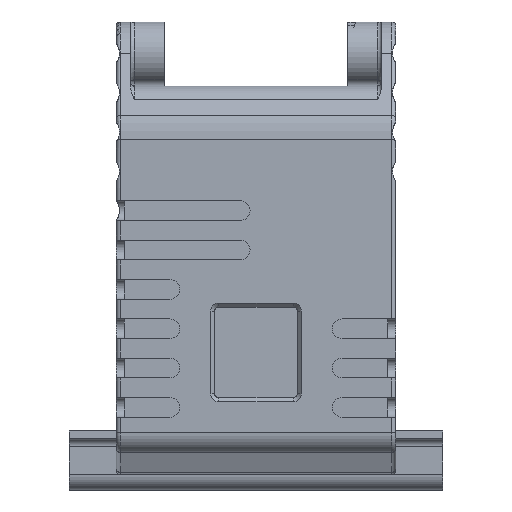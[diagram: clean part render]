
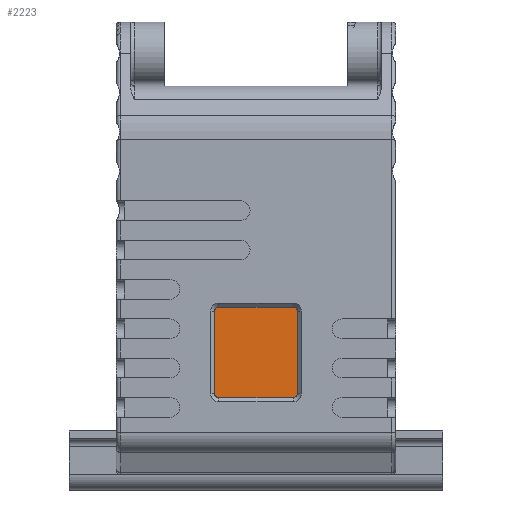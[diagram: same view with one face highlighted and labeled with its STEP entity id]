
A CAD part, left-side view. The second image highlights one B-rep face of the part: STEP entity #2223.
In plain terms, the highlighted planar face has unit normal (-1, 0, 0).
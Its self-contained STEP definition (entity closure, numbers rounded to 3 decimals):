
#1384=PLANE('',#26610);
#2223=ADVANCED_FACE('',(#4166),#1384,.F.);
#4166=FACE_OUTER_BOUND('',#5656,.T.);
#5656=EDGE_LOOP('',(#13005,#13006,#13007,#13008,#13009,#13010,#13011,#13012));
#7575=LINE('',#38697,#9748);
#7576=LINE('',#38698,#9749);
#7577=LINE('',#38702,#9750);
#7578=LINE('',#38703,#9751);
#9748=VECTOR('',#30091,1.);
#9749=VECTOR('',#30092,1.);
#9750=VECTOR('',#30095,1.);
#9751=VECTOR('',#30096,1.);
#13005=ORIENTED_EDGE('',*,*,#22416,.T.);
#13006=ORIENTED_EDGE('',*,*,#21999,.T.);
#13007=ORIENTED_EDGE('',*,*,#22417,.T.);
#13008=ORIENTED_EDGE('',*,*,#22418,.T.);
#13009=ORIENTED_EDGE('',*,*,#22419,.T.);
#13010=ORIENTED_EDGE('',*,*,#22002,.T.);
#13011=ORIENTED_EDGE('',*,*,#22420,.T.);
#13012=ORIENTED_EDGE('',*,*,#22005,.T.);
#19537=VERTEX_POINT('',#37670);
#19538=VERTEX_POINT('',#37672);
#19539=VERTEX_POINT('',#37676);
#19540=VERTEX_POINT('',#37678);
#19541=VERTEX_POINT('',#37682);
#19542=VERTEX_POINT('',#37684);
#19787=VERTEX_POINT('',#38699);
#19788=VERTEX_POINT('',#38701);
#21999=EDGE_CURVE('',#19537,#19538,#25233,.T.);
#22002=EDGE_CURVE('',#19539,#19540,#25234,.T.);
#22005=EDGE_CURVE('',#19541,#19542,#25235,.T.);
#22416=EDGE_CURVE('',#19542,#19537,#7575,.T.);
#22417=EDGE_CURVE('',#19538,#19787,#7576,.T.);
#22418=EDGE_CURVE('',#19787,#19788,#25394,.T.);
#22419=EDGE_CURVE('',#19788,#19539,#7577,.T.);
#22420=EDGE_CURVE('',#19540,#19541,#7578,.T.);
#25233=CIRCLE('',#26263,0.5);
#25234=CIRCLE('',#26265,0.5);
#25235=CIRCLE('',#26267,0.5);
#25394=CIRCLE('',#26609,0.5);
#26263=AXIS2_PLACEMENT_3D('',#37673,#29179,#29180);
#26265=AXIS2_PLACEMENT_3D('',#37679,#29185,#29186);
#26267=AXIS2_PLACEMENT_3D('',#37685,#29191,#29192);
#26609=AXIS2_PLACEMENT_3D('',#38700,#30093,#30094);
#26610=AXIS2_PLACEMENT_3D('',#38704,#30097,#30098);
#29179=DIRECTION('',(-1.,0.,0.));
#29180=DIRECTION('',(0.,0.,-1.));
#29185=DIRECTION('',(-1.,0.,0.));
#29186=DIRECTION('',(0.,0.,-1.));
#29191=DIRECTION('',(-1.,0.,0.));
#29192=DIRECTION('',(0.,0.,-1.));
#30091=DIRECTION('',(0.,1.,0.));
#30092=DIRECTION('',(0.,0.,-1.));
#30093=DIRECTION('',(-1.,0.,0.));
#30094=DIRECTION('',(0.,0.,-1.));
#30095=DIRECTION('',(0.,-1.,0.));
#30096=DIRECTION('',(0.,0.,1.));
#30097=DIRECTION('',(1.,0.,0.));
#30098=DIRECTION('',(0.,0.,-1.));
#37670=CARTESIAN_POINT('',(22.266,37.529,18.945));
#37672=CARTESIAN_POINT('',(22.266,38.029,18.445));
#37673=CARTESIAN_POINT('',(22.266,37.529,18.445));
#37676=CARTESIAN_POINT('',(22.266,28.029,7.446));
#37678=CARTESIAN_POINT('',(22.266,27.529,7.946));
#37679=CARTESIAN_POINT('',(22.266,28.029,7.946));
#37682=CARTESIAN_POINT('',(22.266,27.529,18.445));
#37684=CARTESIAN_POINT('',(22.266,28.029,18.945));
#37685=CARTESIAN_POINT('',(22.266,28.029,18.445));
#38697=CARTESIAN_POINT('',(22.266,37.529,18.945));
#38698=CARTESIAN_POINT('',(22.266,38.029,7.945));
#38699=CARTESIAN_POINT('',(22.266,38.029,7.946));
#38700=CARTESIAN_POINT('',(22.266,37.529,7.946));
#38701=CARTESIAN_POINT('',(22.266,37.529,7.446));
#38702=CARTESIAN_POINT('',(22.266,37.529,7.446));
#38703=CARTESIAN_POINT('',(22.266,27.529,18.502));
#38704=CARTESIAN_POINT('',(22.266,37.529,7.945));
